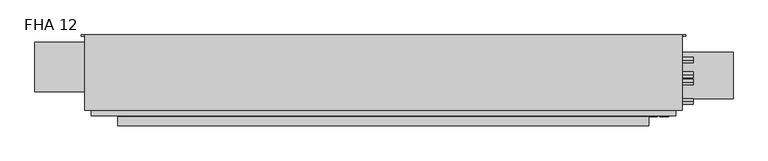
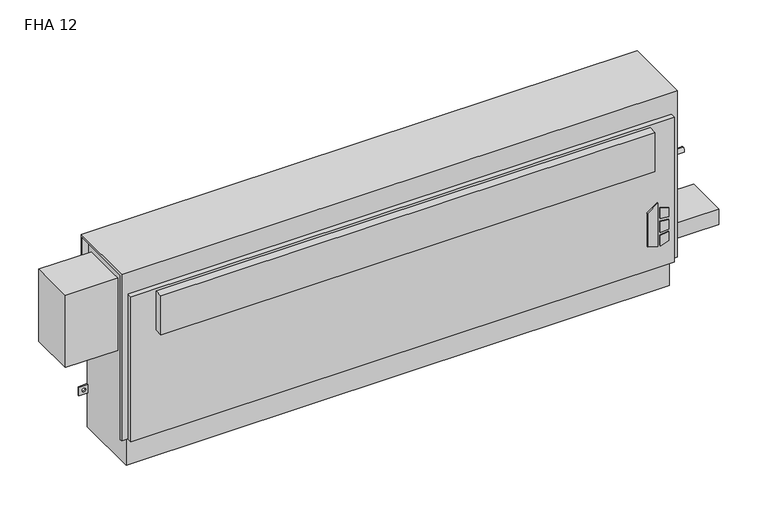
"""IFC4 building model written with IfcOpenShell, lengths in millimetres: proxy geometry, Vertical_Fan_Coil_Unit_-_FHA_-_IEC_-_4-Pipe_FS-FR_RH_2022 : FHA 12."""

from ifc_helpers import new_model, si_unit, point, frame, frame_2d, origin, place, context, project, spatial, polyline, circle_curve, trimmed, segment, composite_curve, outline, extrude, source, transform, mapped, element, save
from ifc_brep_helpers import plane_surface, revolved_surface, advanced_brep


def fha_12_9ba54ef7(model_context):
    return source(origin(), model_context, "Body", "SolidModel", [
        extrude(outline(polyline([(172.5771459, 906.5368862), (162.6290756, 938.7102728), (304.8, 938.7102728), (281.7779939, 906.5368862), (172.5771459, 906.5368862)])), frame((0.0, 9.525, 0.0), z_axis=(0.0, 1.0, 0.0), x_axis=(0.0, 0.0, 1.0)), (0.0, 0.0, 1.0), 3.175),
        extrude(outline(polyline([(251.5764313, 945.4686058), (248.3740387, 971.55), (277.6028798, 971.55), (285.6672948, 945.4686058), (251.5764313, 945.4686058)])), frame((0.0, 9.525, 0.0), z_axis=(0.0, 1.0, 0.0), x_axis=(0.0, 0.0, 1.0)), (0.0, 0.0, 1.0), 3.175),
        extrude(outline(polyline([(199.7129044, 971.55), (196.0474034, 945.4686058), (162.6290756, 945.4686058), (171.2633128, 971.55), (199.7129044, 971.55)])), frame((0.0, 9.525, 0.0), z_axis=(0.0, 1.0, 0.0), x_axis=(0.0, 0.0, 1.0)), (0.0, 0.0, 1.0), 3.175),
        extrude(outline(polyline([(239.0280658, 971.55), (241.3098921, 945.4686058), (205.3723436, 945.4686058), (208.1136086, 971.55), (239.0280658, 971.55)])), frame((0.0, 9.525, 0.0), z_axis=(0.0, 1.0, 0.0), x_axis=(0.0, 0.0, 1.0)), (0.0, 0.0, 1.0), 3.175),
        extrude(outline(composite_curve([segment(trimmed(circle_curve(frame_2d((1054.1, 128.5875)), 9.525), [point((1044.575, 128.5875))], [point((1063.625, 128.5875))], False, "CARTESIAN"), True, "CONTINUOUS"), segment(trimmed(circle_curve(frame_2d((1054.1, 128.5875)), 9.525), [point((1063.625, 128.5875))], [point((1044.575, 128.5875))], False, "CARTESIAN"), True, "CONTINUOUS")], self_intersect=False)), frame((0.0, 0.0, 101.6), z_axis=(0.0, 0.0, 1.0), x_axis=(1.0, 0.0, 0.0)), (0.0, 0.0, 1.0), 25.4),
        extrude(outline(polyline([(1155.7, 195.2625), (1155.7, 61.9125), (990.6, 61.9125), (990.6, 195.2625), (1155.7, 195.2625)])), frame((0.0, 0.0, 127.0), z_axis=(0.0, 0.0, 1.0), x_axis=(1.0, 0.0, 0.0)), (0.0, 0.0, 1.0), 50.8),
        extrude(outline(polyline([(914.4, -15.875), (-609.6, -15.875), (-609.6, 9.525), (914.4, 9.525), (914.4, -15.875)])), frame((0.0, 0.0, 431.8), z_axis=(0.0, 0.0, 1.0), x_axis=(1.0, 0.0, 0.0)), (0.0, 0.0, 1.0), 127.0),
        extrude(outline(composite_curve([segment(trimmed(circle_curve(frame_2d((109.0168, 457.2)), 7.9375), [point((109.0168, 449.2625))], [point((109.0168, 465.1375))], False, "CARTESIAN"), True, "CONTINUOUS"), segment(trimmed(circle_curve(frame_2d((109.0168, 457.2)), 7.9375), [point((109.0168, 465.1375))], [point((109.0168, 449.2625))], False, "CARTESIAN"), True, "CONTINUOUS")], self_intersect=False)), frame((990.6, 0.0, 0.0), z_axis=(1.0, 0.0, 0.0), x_axis=(0.0, 1.0, 0.0)), (0.0, 0.0, 1.0), 50.8),
        extrude(outline(composite_curve([segment(trimmed(circle_curve(frame_2d((172.085, 460.0194)), 7.9375), [point((172.085, 452.0819))], [point((172.085, 467.9569))], False, "CARTESIAN"), True, "CONTINUOUS"), segment(trimmed(circle_curve(frame_2d((172.085, 460.0194)), 7.9375), [point((172.085, 467.9569))], [point((172.085, 452.0819))], False, "CARTESIAN"), True, "CONTINUOUS")], self_intersect=False)), frame((990.6, 0.0, 0.0), z_axis=(1.0, 0.0, 0.0), x_axis=(0.0, 1.0, 0.0)), (0.0, 0.0, 1.0), 50.8),
        extrude(outline(composite_curve([segment(trimmed(circle_curve(frame_2d((130.175, 554.99)), 7.9502), [point((130.175, 547.0398))], [point((130.175, 562.9402))], False, "CARTESIAN"), True, "CONTINUOUS"), segment(trimmed(circle_curve(frame_2d((130.175, 554.99)), 7.9502), [point((130.175, 562.9402))], [point((130.175, 547.0398))], False, "CARTESIAN"), True, "CONTINUOUS")], self_intersect=False)), frame((990.6, 0.0, 0.0), z_axis=(1.0, 0.0, 0.0), x_axis=(0.0, 1.0, 0.0)), (0.0, 0.0, 1.0), 50.8),
        extrude(outline(composite_curve([segment(trimmed(circle_curve(frame_2d((53.975, 416.56)), 7.9502), [point((53.975, 408.6098))], [point((53.975, 424.5102))], False, "CARTESIAN"), True, "CONTINUOUS"), segment(trimmed(circle_curve(frame_2d((53.975, 416.56)), 7.9502), [point((53.975, 424.5102))], [point((53.975, 408.6098))], False, "CARTESIAN"), True, "CONTINUOUS")], self_intersect=False)), frame((990.6, 0.0, 0.0), z_axis=(1.0, 0.0, 0.0), x_axis=(0.0, 1.0, 0.0)), (0.0, 0.0, 1.0), 50.8),
        extrude(outline(polyline([(-685.8, 223.266), (-685.8, 81.534), (-847.725, 81.534), (-847.725, 223.266), (-685.8, 223.266)])), frame((0.0, 0.0, 349.25), z_axis=(0.0, 0.0, 1.0), x_axis=(1.0, 0.0, 0.0)), (0.0, 0.0, 1.0), 234.95),
        advanced_brep(
        [(1009.65, 244.475, 635.0), (-704.85, 244.475, 635.0), (-704.85, 28.575, 635.0), (1009.65, 28.575, 635.0), (-685.8, 244.475, 0.0), (990.6, 244.475, 0.0), (990.6, 38.1, 0.0), (-685.8, 38.1, 0.0), (1009.65, 244.475, 558.8), (990.6, 244.475, 558.8), (990.6, 244.475, 414.3375), (1019.175, 244.475, 414.3375), (1019.175, 244.475, 385.7625), (990.6, 244.475, 385.7625), (990.6, 244.475, 287.3375), (1019.175, 244.475, 287.3375), (1019.175, 244.475, 258.7625), (990.6, 244.475, 258.7625), (990.6, 244.475, 141.2875), (1019.175, 244.475, 141.2875), (1019.175, 244.475, 112.7125), (990.6, 244.475, 112.7125), (-685.8, 244.475, 112.7125), (-714.375, 244.475, 112.7125), (-714.375, 244.475, 141.2875), (-685.8, 244.475, 141.2875), (-685.8, 244.475, 258.7625), (-714.375, 244.475, 258.7625), (-714.375, 244.475, 287.3375), (-685.8, 244.475, 287.3375), (-685.8, 244.475, 385.7625), (-714.375, 244.475, 385.7625), (-714.375, 244.475, 414.3375), (-685.8, 244.475, 414.3375), (-685.8, 244.475, 558.8), (-704.85, 244.475, 558.8), (1008.8626, 244.475, 127.0), (997.7374, 244.475, 127.0), (-692.9374, 244.475, 127.0), (-704.0626, 244.475, 127.0), (1008.8626, 244.475, 273.05), (997.7374, 244.475, 273.05), (-692.9374, 244.475, 273.05), (-704.0626, 244.475, 273.05), (1008.8626, 244.475, 400.05), (997.7374, 244.475, 400.05), (-692.9374, 244.475, 400.05), (-704.0626, 244.475, 400.05), (-704.85, 238.125, 558.8), (-704.85, 238.125, 628.65), (-704.85, 34.925, 628.65), (-704.85, 34.925, 92.075), (-704.85, 28.575, 92.075), (990.6, 12.7, 565.15), (-685.8, 12.7, 565.15), (-685.8, 12.7, 92.075), (990.6, 12.7, 92.075), (1009.65, 28.575, 92.075), (1009.65, 34.925, 92.075), (1009.65, 34.925, 628.65), (1009.65, 238.125, 628.65), (1009.65, 238.125, 558.8), (-685.8, 28.575, 92.075), (-685.8, 28.575, 565.15), (990.6, 28.575, 565.15), (990.6, 28.575, 92.075), (-685.8, 34.925, 92.075), (-685.8, 38.1, 92.075), (990.6, 38.1, 92.075), (990.6, 34.925, 92.075), (990.6, 241.3, 112.7125), (990.6, 241.3, 141.2875), (990.6, 241.3, 258.7625), (990.6, 241.3, 287.3375), (990.6, 241.3, 385.7625), (990.6, 241.3, 414.3375), (990.6, 238.125, 558.8), (990.6, 238.125, 628.65), (990.6, 34.925, 628.65), (-685.8, 34.925, 628.65), (-685.8, 238.125, 628.65), (-685.8, 238.125, 558.8), (-685.8, 241.3, 414.3375), (-685.8, 241.3, 385.7625), (-685.8, 241.3, 287.3375), (-685.8, 241.3, 258.7625), (-685.8, 241.3, 141.2875), (-685.8, 241.3, 112.7125), (1019.175, 241.3, 112.7125), (1019.175, 241.3, 141.2875), (997.7374, 241.3, 127.0), (1008.8626, 241.3, 127.0), (1019.175, 241.3, 258.7625), (1019.175, 241.3, 287.3375), (997.7374, 241.3, 273.05), (1008.8626, 241.3, 273.05), (1019.175, 241.3, 385.7625), (1019.175, 241.3, 414.3375), (997.7374, 241.3, 400.05), (1008.8626, 241.3, 400.05), (-714.375, 241.3, 141.2875), (-714.375, 241.3, 112.7125), (-704.0626, 241.3, 127.0), (-692.9374, 241.3, 127.0), (-714.375, 241.3, 287.3375), (-714.375, 241.3, 258.7625), (-704.0626, 241.3, 273.05), (-692.9374, 241.3, 273.05), (-714.375, 241.3, 414.3375), (-714.375, 241.3, 385.7625), (-704.0626, 241.3, 400.05), (-692.9374, 241.3, 400.05)],
        [
            (0, 1),
            (1, 2),
            (2, 3),
            (3, 0),
            (4, 5),
            (5, 6),
            (6, 7),
            (7, 4),
            (0, 8),
            (8, 9),
            (9, 10),
            (10, 11),
            (11, 12),
            (12, 13),
            (13, 14),
            (14, 15),
            (15, 16),
            (16, 17),
            (17, 18),
            (18, 19),
            (19, 20),
            (20, 21),
            (21, 5),
            (4, 22),
            (22, 23),
            (23, 24),
            (24, 25),
            (25, 26),
            (26, 27),
            (27, 28),
            (28, 29),
            (29, 30),
            (30, 31),
            (31, 32),
            (32, 33),
            (33, 34),
            (34, 35),
            (35, 1),
            (36, 37, circle_curve(frame((1003.3, 244.475, 127.0), z_axis=(0.0, -1.0, 0.0), x_axis=(-1.0, 0.0, 0.0)), 5.5626)),
            (37, 36, circle_curve(frame((1003.3, 244.475, 127.0), z_axis=(0.0, -1.0, 0.0), x_axis=(-1.0, 0.0, 0.0)), 5.5626)),
            (38, 39, circle_curve(frame((-698.5, 244.475, 127.0), z_axis=(0.0, -1.0, 0.0), x_axis=(-1.0, 0.0, 0.0)), 5.5626)),
            (39, 38, circle_curve(frame((-698.5, 244.475, 127.0), z_axis=(0.0, -1.0, 0.0), x_axis=(-1.0, 0.0, 0.0)), 5.5626)),
            (40, 41, circle_curve(frame((1003.3, 244.475, 273.05), z_axis=(0.0, -1.0, 0.0), x_axis=(-1.0, 0.0, 0.0)), 5.5626)),
            (41, 40, circle_curve(frame((1003.3, 244.475, 273.05), z_axis=(0.0, -1.0, 0.0), x_axis=(-1.0, 0.0, 0.0)), 5.5626)),
            (42, 43, circle_curve(frame((-698.5, 244.475, 273.05), z_axis=(0.0, -1.0, 0.0), x_axis=(-1.0, 0.0, 0.0)), 5.5626)),
            (43, 42, circle_curve(frame((-698.5, 244.475, 273.05), z_axis=(0.0, -1.0, 0.0), x_axis=(-1.0, 0.0, 0.0)), 5.5626)),
            (44, 45, circle_curve(frame((1003.3, 244.475, 400.05), z_axis=(0.0, -1.0, 0.0), x_axis=(-1.0, 0.0, 0.0)), 5.5626)),
            (45, 44, circle_curve(frame((1003.3, 244.475, 400.05), z_axis=(0.0, -1.0, 0.0), x_axis=(-1.0, 0.0, 0.0)), 5.5626)),
            (46, 47, circle_curve(frame((-698.5, 244.475, 400.05), z_axis=(0.0, -1.0, 0.0), x_axis=(-1.0, 0.0, 0.0)), 5.5626)),
            (47, 46, circle_curve(frame((-698.5, 244.475, 400.05), z_axis=(0.0, -1.0, 0.0), x_axis=(-1.0, 0.0, 0.0)), 5.5626)),
            (35, 48),
            (48, 49),
            (49, 50),
            (50, 51),
            (51, 52),
            (52, 2),
            (53, 54),
            (54, 55),
            (55, 56),
            (56, 53),
            (3, 57),
            (57, 58),
            (58, 59),
            (59, 60),
            (60, 61),
            (61, 8),
            (52, 62),
            (62, 63),
            (63, 64),
            (64, 65),
            (65, 57),
            (53, 64),
            (63, 54),
            (55, 62),
            (51, 66),
            (66, 67),
            (67, 68),
            (68, 69),
            (69, 58),
            (65, 56),
            (6, 68),
            (67, 7),
            (21, 70),
            (70, 71),
            (71, 18),
            (17, 72),
            (72, 73),
            (73, 14),
            (13, 74),
            (74, 75),
            (75, 10),
            (9, 76),
            (76, 77),
            (77, 78),
            (78, 69),
            (66, 79),
            (79, 80),
            (80, 81),
            (81, 34),
            (33, 82),
            (82, 83),
            (83, 30),
            (29, 84),
            (84, 85),
            (85, 26),
            (25, 86),
            (86, 87),
            (87, 22),
            (76, 61),
            (60, 77),
            (78, 59),
            (50, 79),
            (81, 48),
            (80, 49),
            (70, 88),
            (88, 89),
            (89, 71),
            (90, 91, circle_curve(frame((1003.3, 241.3, 127.0), z_axis=(0.0, 1.0, 0.0), x_axis=(-1.0, 0.0, 0.0)), 5.5626)),
            (91, 90, circle_curve(frame((1003.3, 241.3, 127.0), z_axis=(0.0, 1.0, 0.0), x_axis=(-1.0, 0.0, 0.0)), 5.5626)),
            (92, 93),
            (93, 73),
            (72, 92),
            (94, 95, circle_curve(frame((1003.3, 241.3, 273.05), z_axis=(0.0, 1.0, 0.0), x_axis=(-1.0, 0.0, 0.0)), 5.5626)),
            (95, 94, circle_curve(frame((1003.3, 241.3, 273.05), z_axis=(0.0, 1.0, 0.0), x_axis=(-1.0, 0.0, 0.0)), 5.5626)),
            (96, 97),
            (97, 75),
            (74, 96),
            (98, 99, circle_curve(frame((1003.3, 241.3, 400.05), z_axis=(0.0, 1.0, 0.0), x_axis=(-1.0, 0.0, 0.0)), 5.5626)),
            (99, 98, circle_curve(frame((1003.3, 241.3, 400.05), z_axis=(0.0, 1.0, 0.0), x_axis=(-1.0, 0.0, 0.0)), 5.5626)),
            (100, 101),
            (101, 87),
            (86, 100),
            (102, 103, circle_curve(frame((-698.5, 241.3, 127.0), z_axis=(0.0, 1.0, 0.0), x_axis=(-1.0, 0.0, 0.0)), 5.5626)),
            (103, 102, circle_curve(frame((-698.5, 241.3, 127.0), z_axis=(0.0, 1.0, 0.0), x_axis=(-1.0, 0.0, 0.0)), 5.5626)),
            (84, 104),
            (104, 105),
            (105, 85),
            (106, 107, circle_curve(frame((-698.5, 241.3, 273.05), z_axis=(0.0, 1.0, 0.0), x_axis=(-1.0, 0.0, 0.0)), 5.5626)),
            (107, 106, circle_curve(frame((-698.5, 241.3, 273.05), z_axis=(0.0, 1.0, 0.0), x_axis=(-1.0, 0.0, 0.0)), 5.5626)),
            (108, 109),
            (109, 83),
            (82, 108),
            (110, 111, circle_curve(frame((-698.5, 241.3, 400.05), z_axis=(0.0, 1.0, 0.0), x_axis=(-1.0, 0.0, 0.0)), 5.5626)),
            (111, 110, circle_curve(frame((-698.5, 241.3, 400.05), z_axis=(0.0, 1.0, 0.0), x_axis=(-1.0, 0.0, 0.0)), 5.5626)),
            (89, 19),
            (88, 20),
            (16, 92),
            (93, 15),
            (12, 96),
            (97, 11),
            (24, 100),
            (101, 23),
            (105, 27),
            (104, 28),
            (32, 108),
            (109, 31),
            (90, 37),
            (36, 91),
            (102, 39),
            (38, 103),
            (94, 41),
            (40, 95),
            (106, 43),
            (42, 107),
            (98, 45),
            (44, 99),
            (110, 47),
            (46, 111),
        ],
        [
            plane_surface(frame((-704.85, 244.475, 635.0), z_axis=(0.0, 0.0, 1.0), x_axis=(-1.0, 0.0, 0.0))),
            plane_surface(frame((-704.85, 244.475, 0.0), z_axis=(0.0, 0.0, -1.0), x_axis=(1.0, 0.0, 0.0))),
            plane_surface(frame((1009.65, 244.475, 635.0), z_axis=(0.0, 1.0, 0.0), x_axis=(0.0, 0.0, -1.0))),
            plane_surface(frame((-704.85, 244.475, 635.0), z_axis=(-1.0, 0.0, 0.0), x_axis=(0.0, 0.0, -1.0))),
            plane_surface(frame((-704.85, 12.7, 635.0), z_axis=(0.0, -1.0, 0.0), x_axis=(0.0, 0.0, -1.0))),
            plane_surface(frame((1009.65, 12.7, 635.0), z_axis=(1.0, 0.0, 0.0), x_axis=(0.0, 0.0, -1.0))),
            plane_surface(frame((-1263.65, 28.575, 635.0), z_axis=(0.0, -1.0, 0.0), x_axis=(1.0, 0.0, 0.0))),
            plane_surface(frame((-1263.65, 28.575, 565.15), z_axis=(0.0, 0.0, 1.0), x_axis=(1.0, 0.0, 0.0))),
            plane_surface(frame((-704.85, 12.7, 92.075), z_axis=(0.0, 0.0, -1.0), x_axis=(1.0, 0.0, 0.0))),
            plane_surface(frame((-704.85, 38.1, 92.075), z_axis=(0.0, -1.0, 0.0), x_axis=(1.0, 0.0, 0.0))),
            plane_surface(frame((990.6, 28.575, 92.075), z_axis=(1.0, 0.0, 0.0), x_axis=(0.0, -1.0, 0.0))),
            plane_surface(frame((-685.8, 28.575, 565.15), z_axis=(-1.0, 0.0, 0.0), x_axis=(0.0, -1.0, 0.0))),
            plane_surface(frame((990.6, 244.475, 0.0), z_axis=(1.0, 0.0, 0.0), x_axis=(0.0, -1.0, 0.0))),
            plane_surface(frame((-685.8, 244.475, 92.075), z_axis=(-1.0, 0.0, 0.0), x_axis=(0.0, -1.0, 0.0))),
            plane_surface(frame((990.6, 238.125, 628.65), z_axis=(0.0, -1.0, 0.0), x_axis=(1.0, 0.0, 0.0))),
            plane_surface(frame((990.6, 238.125, 558.8), z_axis=(0.0, 0.0, -1.0), x_axis=(1.0, 0.0, 0.0))),
            plane_surface(frame((990.6, 34.925, 92.075), z_axis=(0.0, 1.0, 0.0), x_axis=(1.0, 0.0, 0.0))),
            plane_surface(frame((990.6, 34.925, 628.65), z_axis=(0.0, 0.0, -1.0), x_axis=(1.0, 0.0, 0.0))),
            plane_surface(frame((-685.8, 34.925, 628.65), z_axis=(0.0, 1.0, 0.0), x_axis=(-1.0, 0.0, 0.0))),
            plane_surface(frame((-685.8, 244.475, 558.8), z_axis=(0.0, 0.0, -1.0), x_axis=(-1.0, 0.0, 0.0))),
            plane_surface(frame((-685.8, 238.125, 558.8), z_axis=(0.0, -1.0, 0.0), x_axis=(-1.0, 0.0, 0.0))),
            plane_surface(frame((-685.8, 238.125, 628.65), z_axis=(0.0, 0.0, -1.0), x_axis=(-1.0, 0.0, 0.0))),
            plane_surface(frame((1019.175, 241.3, 141.2875), z_axis=(0.0, -1.0, 0.0), x_axis=(-1.0, 0.0, 0.0))),
            plane_surface(frame((990.6, 244.475, 141.2875), z_axis=(0.0, 0.0, 1.0), x_axis=(0.0, -1.0, 0.0))),
            plane_surface(frame((1019.175, 244.475, 141.2875), z_axis=(1.0, 0.0, 0.0), x_axis=(0.0, -1.0, 0.0))),
            plane_surface(frame((1019.175, 244.475, 112.7125), z_axis=(0.0, 0.0, -1.0), x_axis=(0.0, -1.0, 0.0))),
            plane_surface(frame((1019.175, 244.475, 258.7625), z_axis=(0.0, 0.0, -1.0), x_axis=(0.0, -1.0, 0.0))),
            plane_surface(frame((990.6, 244.475, 287.3375), z_axis=(0.0, 0.0, 1.0), x_axis=(0.0, -1.0, 0.0))),
            plane_surface(frame((1019.175, 244.475, 287.3375), z_axis=(1.0, 0.0, 0.0), x_axis=(0.0, -1.0, 0.0))),
            plane_surface(frame((1019.175, 244.475, 385.7625), z_axis=(0.0, 0.0, -1.0), x_axis=(0.0, -1.0, 0.0))),
            plane_surface(frame((990.6, 244.475, 414.3375), z_axis=(0.0, 0.0, 1.0), x_axis=(0.0, -1.0, 0.0))),
            plane_surface(frame((1019.175, 244.475, 414.3375), z_axis=(1.0, 0.0, 0.0), x_axis=(0.0, -1.0, 0.0))),
            plane_surface(frame((-714.375, 244.475, 141.2875), z_axis=(0.0, 0.0, 1.0), x_axis=(0.0, -1.0, 0.0))),
            plane_surface(frame((-685.8, 244.475, 112.7125), z_axis=(0.0, 0.0, -1.0), x_axis=(0.0, -1.0, 0.0))),
            plane_surface(frame((-714.375, 244.475, 112.7125), z_axis=(-1.0, 0.0, 0.0), x_axis=(0.0, -1.0, 0.0))),
            plane_surface(frame((-685.8, 244.475, 258.7625), z_axis=(0.0, 0.0, -1.0), x_axis=(0.0, -1.0, 0.0))),
            plane_surface(frame((-714.375, 244.475, 258.7625), z_axis=(-1.0, 0.0, 0.0), x_axis=(0.0, -1.0, 0.0))),
            plane_surface(frame((-714.375, 244.475, 287.3375), z_axis=(0.0, 0.0, 1.0), x_axis=(0.0, -1.0, 0.0))),
            plane_surface(frame((-714.375, 244.475, 414.3375), z_axis=(0.0, 0.0, 1.0), x_axis=(0.0, -1.0, 0.0))),
            plane_surface(frame((-685.8, 244.475, 385.7625), z_axis=(0.0, 0.0, -1.0), x_axis=(0.0, -1.0, 0.0))),
            plane_surface(frame((-714.375, 244.475, 385.7625), z_axis=(-1.0, 0.0, 0.0), x_axis=(0.0, -1.0, 0.0))),
            revolved_surface(polyline([(997.7374, 241.3, 127.0), (997.7374, 244.475, 127.0)]), (1003.3, 244.475, 127.0), (0.0, -1.0, 0.0)),
            revolved_surface(polyline([(-704.0626, 241.3, 127.0), (-704.0626, 244.475, 127.0)]), (-698.5, 244.475, 127.0), (0.0, -1.0, 0.0)),
            revolved_surface(polyline([(997.7374, 241.3, 273.05), (997.7374, 244.475, 273.05)]), (1003.3, 244.475, 273.05), (0.0, -1.0, 0.0)),
            revolved_surface(polyline([(-704.0626, 241.3, 273.05), (-704.0626, 244.475, 273.05)]), (-698.5, 244.475, 273.05), (0.0, -1.0, 0.0)),
            revolved_surface(polyline([(997.7374, 241.3, 400.05), (997.7374, 244.475, 400.05)]), (1003.3, 244.475, 400.05), (0.0, -1.0, 0.0)),
            revolved_surface(polyline([(-704.0626, 241.3, 400.05), (-704.0626, 244.475, 400.05)]), (-698.5, 244.475, 400.05), (0.0, -1.0, 0.0)),
        ],
        [
            (0, [[1, 2, 3, 4]]),
            (1, [[5, 6, 7, 8]]),
            (2, [[-1, 9, 10, 11, 12, 13, 14, 15, 16, 17, 18, 19, 20, 21, 22, 23, -5, 24, 25, 26, 27, 28, 29, 30, 31, 32, 33, 34, 35, 36, 37, 38], [39, 40], [41, 42], [43, 44], [45, 46], [47, 48], [49, 50]]),
            (3, [[-2, -38, 51, 52, 53, 54, 55, 56]]),
            (4, [[57, 58, 59, 60]]),
            (5, [[-4, 61, 62, 63, 64, 65, 66, -9]]),
            (6, [[-3, -56, 67, 68, 69, 70, 71, -61]]),
            (7, [[-57, 72, -69, 73]]),
            (8, [[-59, 74, -67, -55, 75, 76, 77, 78, 79, -62, -71, 80]]),
            (9, [[-7, 81, -77, 82]]),
            (10, [[-70, -72, -60, -80]]),
            (11, [[-68, -74, -58, -73]]),
            (12, [[-6, -23, 83, 84, 85, -19, 86, 87, 88, -15, 89, 90, 91, -11, 92, 93, 94, 95, -78, -81]]),
            (13, [[-8, -82, -76, 96, 97, 98, 99, -36, 100, 101, 102, -32, 103, 104, 105, -28, 106, 107, 108, -24]]),
            (14, [[-93, 109, -65, 110]]),
            (15, [[-92, -10, -66, -109]]),
            (16, [[-95, 111, -63, -79]]),
            (17, [[-94, -110, -64, -111]]),
            (18, [[-96, -75, -54, 112]]),
            (19, [[-99, 113, -51, -37]]),
            (20, [[-98, 114, -52, -113]]),
            (21, [[-97, -112, -53, -114]]),
            (22, [[115, 116, 117, -84], [118, 119]]),
            (22, [[120, 121, -87, 122], [123, 124]]),
            (22, [[125, 126, -90, 127], [128, 129]]),
            (22, [[130, 131, -107, 132], [133, 134]]),
            (22, [[135, 136, 137, -104], [138, 139]]),
            (22, [[140, 141, -101, 142], [143, 144]]),
            (23, [[-117, 145, -20, -85]]),
            (24, [[-116, 146, -21, -145]]),
            (25, [[-115, -83, -22, -146]]),
            (26, [[-122, -86, -18, 147]]),
            (27, [[-121, 148, -16, -88]]),
            (28, [[-120, -147, -17, -148]]),
            (29, [[-127, -89, -14, 149]]),
            (30, [[-126, 150, -12, -91]]),
            (31, [[-125, -149, -13, -150]]),
            (32, [[-132, -106, -27, 151]]),
            (33, [[-131, 152, -25, -108]]),
            (34, [[-130, -151, -26, -152]]),
            (35, [[-137, 153, -29, -105]]),
            (36, [[-136, 154, -30, -153]]),
            (37, [[-135, -103, -31, -154]]),
            (38, [[-142, -100, -35, 155]]),
            (39, [[-141, 156, -33, -102]]),
            (40, [[-140, -155, -34, -156]]),
            (41, [[157, -39, 158, -118]]),
            (41, [[-157, -119, -158, -40]]),
            (42, [[159, -41, 160, -133]]),
            (42, [[-159, -134, -160, -42]]),
            (43, [[161, -43, 162, -123]]),
            (43, [[-161, -124, -162, -44]]),
            (44, [[163, -45, 164, -138]]),
            (44, [[-163, -139, -164, -46]]),
            (45, [[165, -47, 166, -128]]),
            (45, [[-165, -129, -166, -48]]),
            (46, [[167, -49, 168, -143]]),
            (46, [[-167, -144, -168, -50]]),
        ],
    ),
    ])


if __name__ == "__main__":
    model = new_model("IFC4")
    model_context = context("Model", 3, world=origin())
    ifc_project = project(units=[si_unit("LENGTHUNIT", "METRE", prefix="MILLI")], contexts=[model_context])
    site = spatial("IfcSite", under=ifc_project)
    building = spatial("IfcBuilding", under=site)
    placement = place(None, origin())
    fha_12_shape = fha_12_9ba54ef7(model_context)
    element("IfcBuildingElementProxy", 1, Name="Vertical_Fan_Coil_Unit_-_FHA_-_IEC_-_4-Pipe_FS-FR_RH_2022 : FHA 12", ObjectType="Vertical_Fan_Coil_Unit_-_FHA_-_IEC_-_4-Pipe_FS-FR_RH_2022 : FHA 12", at=placement, inside=building, context=model_context, shape_type="MappedRepresentation", body=[
        mapped(fha_12_shape, transform((0.0, 0.0, 0.0), x_axis=(1.0, 0.0, 0.0), y_axis=(0.0, 1.0, 0.0), z_axis=(0.0, 0.0, 1.0))),
    ])
    save(model, "model.ifc")
